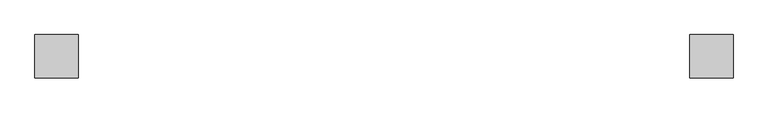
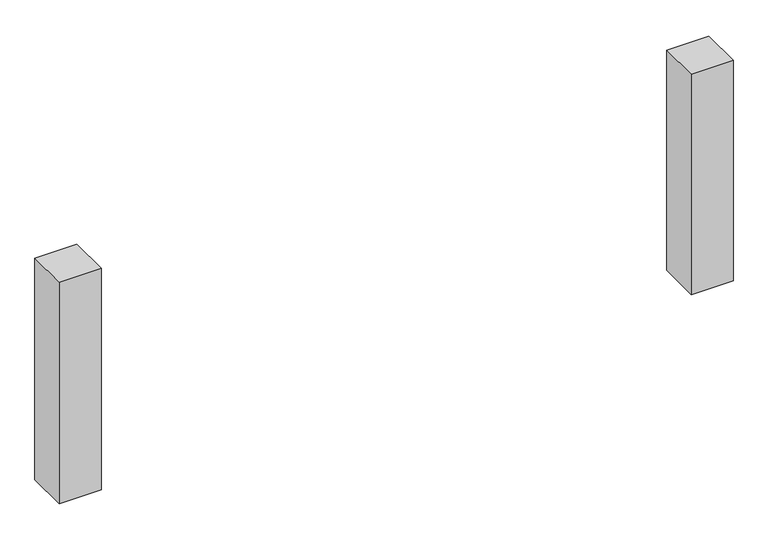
"""IFC4 building model written with IfcOpenShell, lengths in millimetres: proxy geometry, 小立柱 : 小立柱."""

from ifc_helpers import new_model, si_unit, frame, origin, place, context, project, spatial, polyline, outline, extrude, source, transform, mapped, element, save


def specialty_equipment_e6049f96(model_context):
    return source(origin(), model_context, "Body", "SweptSolid", [
        extrude(outline(polyline([(-5995.9782681, 3918.9713095), (-5995.9782681, 3668.9713095), (-6245.9782681, 3668.9713095), (-6245.9782681, 3918.9713095), (-5995.9782681, 3918.9713095)])), frame((0.0, 0.0, 2800.0), z_axis=(0.0, 0.0, 1.0), x_axis=(1.0, 0.0, 0.0)), (0.0, 0.0, 1.0), 1386.4916448),
        extrude(outline(polyline([(-9755.9782681, 3918.9713095), (-9755.9782681, 3668.9713095), (-10005.9782681, 3668.9713095), (-10005.9782681, 3918.9713095), (-9755.9782681, 3918.9713095)])), frame((0.0, 0.0, 2800.0), z_axis=(0.0, 0.0, 1.0), x_axis=(1.0, 0.0, 0.0)), (0.0, 0.0, 1.0), 1394.3642122),
    ])


if __name__ == "__main__":
    model = new_model("IFC4")
    model_context = context("Model", 3, world=origin())
    ifc_project = project(units=[si_unit("LENGTHUNIT", "METRE", prefix="MILLI")], contexts=[model_context])
    site = spatial("IfcSite", under=ifc_project)
    building = spatial("IfcBuilding", under=site)
    placement = place(None, origin())
    specialty_equipment_shape = specialty_equipment_e6049f96(model_context)
    element("IfcBuildingElementProxy", 1, Name="小立柱 : 小立柱", ObjectType="小立柱 : 小立柱", at=placement, inside=building, context=model_context, shape_type="MappedRepresentation", body=[
        mapped(specialty_equipment_shape, transform((0.0, 0.0, 0.0), x_axis=(1.0, 0.0, 0.0), y_axis=(0.0, 1.0, 0.0), z_axis=(0.0, 0.0, 1.0))),
    ])
    save(model, "model.ifc")
